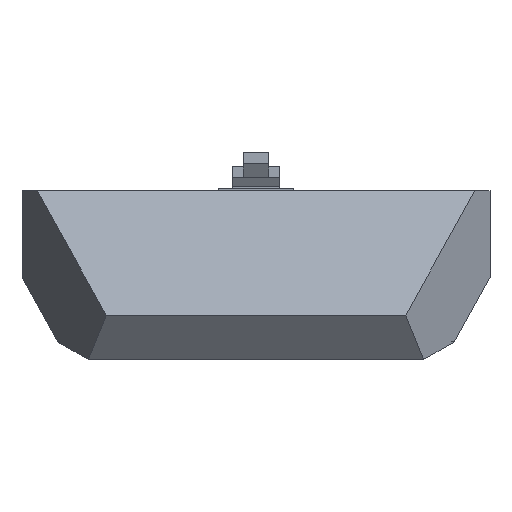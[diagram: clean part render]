
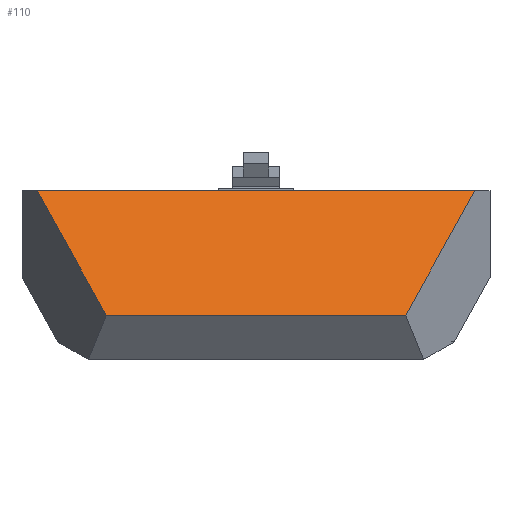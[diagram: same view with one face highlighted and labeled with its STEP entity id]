
A CAD part, front view. The second image highlights one B-rep face of the part: STEP entity #110.
In plain terms, the highlighted planar face has unit normal (0, -0.643, 0.766).
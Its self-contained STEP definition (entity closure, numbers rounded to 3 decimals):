
#110 = ADVANCED_FACE( '', ( #258 ), #259, .F. );
#258 = FACE_OUTER_BOUND( '', #443, .T. );
#259 = PLANE( '', #444 );
#443 = EDGE_LOOP( '', ( #705, #706, #707, #708 ) );
#444 = AXIS2_PLACEMENT_3D( '', #709, #710, #711 );
#705 = ORIENTED_EDGE( '', *, *, #1110, .F. );
#706 = ORIENTED_EDGE( '', *, *, #1111, .T. );
#707 = ORIENTED_EDGE( '', *, *, #1112, .F. );
#708 = ORIENTED_EDGE( '', *, *, #1113, .F. );
#709 = CARTESIAN_POINT( '', ( 46.923, -19.329, 0. ) );
#710 = DIRECTION( '', ( 0., 0.643, -0.766 ) );
#711 = DIRECTION( '', ( 0., 0.766, 0.643 ) );
#1110 = EDGE_CURVE( '', #1345, #1346, #1347, .T. );
#1111 = EDGE_CURVE( '', #1345, #1348, #1349, .T. );
#1112 = EDGE_CURVE( '', #1350, #1348, #1351, .T. );
#1113 = EDGE_CURVE( '', #1346, #1350, #1352, .T. );
#1345 = VERTEX_POINT( '', #1662 );
#1346 = VERTEX_POINT( '', #1663 );
#1347 = LINE( '', #1664, #1665 );
#1348 = VERTEX_POINT( '', #1666 );
#1349 = LINE( '', #1667, #1668 );
#1350 = VERTEX_POINT( '', #1669 );
#1351 = LINE( '', #1670, #1671 );
#1352 = LINE( '', #1672, #1673 );
#1662 = CARTESIAN_POINT( '', ( 43.011, -19.329, 0. ) );
#1663 = CARTESIAN_POINT( '', ( 34.152, -38.33, -15.944 ) );
#1664 = CARTESIAN_POINT( '', ( 43.453, -18.38, 0.797 ) );
#1665 = VECTOR( '', #1919, 1000. );
#1666 = CARTESIAN_POINT( '', ( -13.011, -19.329, 0. ) );
#1667 = CARTESIAN_POINT( '', ( 46.923, -19.329, 0. ) );
#1668 = VECTOR( '', #1920, 1000. );
#1669 = CARTESIAN_POINT( '', ( -4.152, -38.33, -15.944 ) );
#1670 = CARTESIAN_POINT( '', ( -6.23, -33.872, -12.203 ) );
#1671 = VECTOR( '', #1921, 1000. );
#1672 = CARTESIAN_POINT( '', ( 46.923, -38.33, -15.944 ) );
#1673 = VECTOR( '', #1922, 1000. );
#1919 = DIRECTION( '', ( -0.336, -0.721, -0.605 ) );
#1920 = DIRECTION( '', ( -1., 0., 0. ) );
#1921 = DIRECTION( '', ( -0.336, 0.721, 0.605 ) );
#1922 = DIRECTION( '', ( -1., 0., 0. ) );
